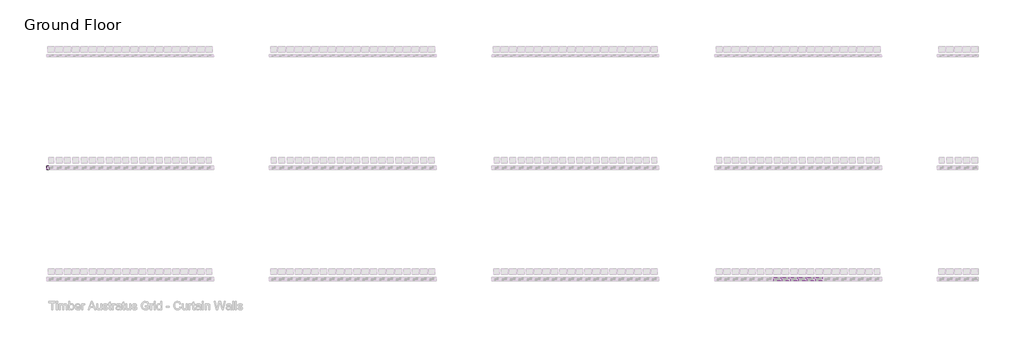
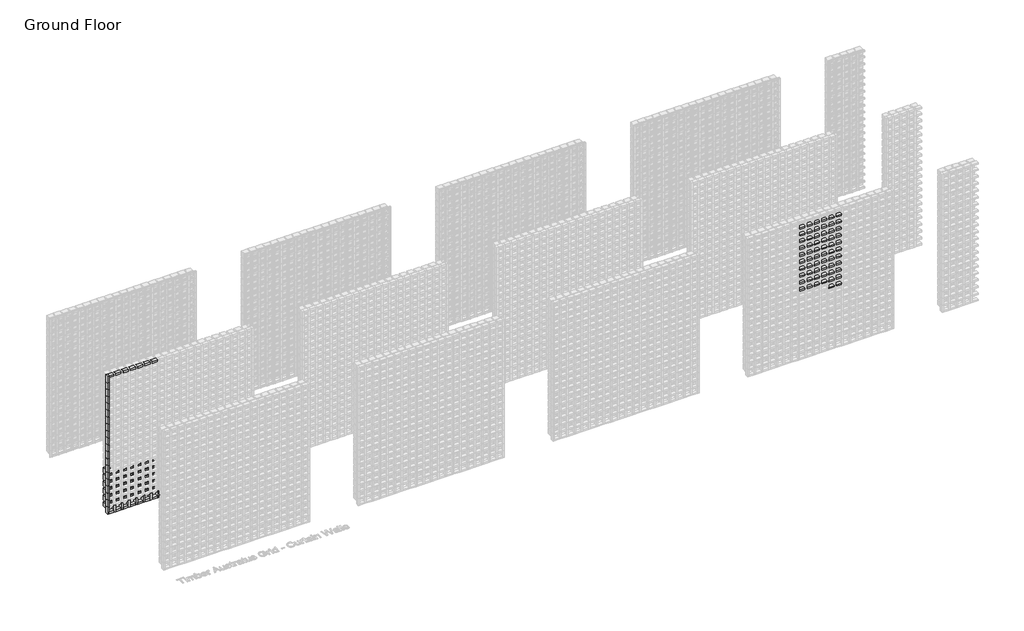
# One storey, part 79 of 350: 104 members, 36 plates.
"""IFC4 building model written with IfcOpenShell, lengths in millimetres."""

from ifc_helpers import new_model, si_unit, origin, place, context, project, spatial, transform, mapped, element, save
from components import rectangular_mullion_f28dea33, rectangular_mullion_655930e9, rectangular_mullion_78309e0b, rectangular_mullion_581565bb, rectangular_mullion_141bfd94, rectangular_mullion_d5b82d3d, rectangular_mullion_948b1c1d, empty_system_panel_empty_3b500fad, empty_system_panel_empty_e4510abc, empty_system_panel_empty_1faefc6a, empty_system_panel_empty_7f4523f5

model = new_model("IFC4")

# Units and contexts
model_context = context("Model", 3, world=origin())
ifc_project = project(units=[si_unit("LENGTHUNIT", "METRE", prefix="MILLI")], contexts=[model_context])

# Site, building, storey
site = spatial("IfcSite", under=ifc_project)
building = spatial("IfcBuilding", under=site)
storey = spatial("IfcBuildingStorey", under=building, Name="Ground Floor", Elevation=0.0)

# Members
placement = place(None, origin())
rectangular_mullion_shape = rectangular_mullion_f28dea33(model_context)
element("IfcMember", 1, ObjectType="Rectangular Mullion : Batten_Timber_Modinex_Austratus_Grid_Fascia_30x65_Ironbark", at=placement, inside=storey, context=model_context, shape_type="MappedRepresentation", body=[
    mapped(rectangular_mullion_shape, transform((15701.4361642, 38968.2978302, 1350.0), x_axis=(0.0, 0.0, 1.0), y_axis=(0.0, -1.0, 0.0), z_axis=(1.0, 0.0, 0.0))),
])
element("IfcMember", 2, ObjectType="Rectangular Mullion : Batten_Timber_Modinex_Austratus_Grid_Fascia_30x65_Ironbark", at=placement, inside=storey, context=model_context, shape_type="MappedRepresentation", body=[
    mapped(rectangular_mullion_shape, transform((15851.4361642, 38968.2978302, 1350.0), x_axis=(0.0, 0.0, 1.0), y_axis=(0.0, -1.0, 0.0), z_axis=(1.0, 0.0, 0.0))),
])
element("IfcMember", 3, ObjectType="Rectangular Mullion : Batten_Timber_Modinex_Austratus_Grid_Fascia_30x65_Ironbark", at=placement, inside=storey, context=model_context, shape_type="MappedRepresentation", body=[
    mapped(rectangular_mullion_shape, transform((15101.4361642, 38968.2978302, 1500.0), x_axis=(0.0, 0.0, 1.0), y_axis=(0.0, -1.0, 0.0), z_axis=(1.0, 0.0, 0.0))),
])
element("IfcMember", 4, ObjectType="Rectangular Mullion : Batten_Timber_Modinex_Austratus_Grid_Fascia_30x65_Ironbark", at=placement, inside=storey, context=model_context, shape_type="MappedRepresentation", body=[
    mapped(rectangular_mullion_shape, transform((15251.4361642, 38968.2978302, 1500.0), x_axis=(0.0, 0.0, 1.0), y_axis=(0.0, -1.0, 0.0), z_axis=(1.0, 0.0, 0.0))),
])
element("IfcMember", 5, ObjectType="Rectangular Mullion : Batten_Timber_Modinex_Austratus_Grid_Fascia_30x65_Ironbark", at=placement, inside=storey, context=model_context, shape_type="MappedRepresentation", body=[
    mapped(rectangular_mullion_shape, transform((15401.4361642, 38968.2978302, 1500.0), x_axis=(0.0, 0.0, 1.0), y_axis=(0.0, -1.0, 0.0), z_axis=(1.0, 0.0, 0.0))),
])
element("IfcMember", 6, ObjectType="Rectangular Mullion : Batten_Timber_Modinex_Austratus_Grid_Fascia_30x65_Ironbark", at=placement, inside=storey, context=model_context, shape_type="MappedRepresentation", body=[
    mapped(rectangular_mullion_shape, transform((15551.4361642, 38968.2978302, 1500.0), x_axis=(0.0, 0.0, 1.0), y_axis=(0.0, -1.0, 0.0), z_axis=(1.0, 0.0, 0.0))),
])
element("IfcMember", 7, ObjectType="Rectangular Mullion : Batten_Timber_Modinex_Austratus_Grid_Fascia_30x65_Ironbark", at=placement, inside=storey, context=model_context, shape_type="MappedRepresentation", body=[
    mapped(rectangular_mullion_shape, transform((15701.4361642, 38968.2978302, 1500.0), x_axis=(0.0, 0.0, 1.0), y_axis=(0.0, -1.0, 0.0), z_axis=(1.0, 0.0, 0.0))),
])
element("IfcMember", 8, ObjectType="Rectangular Mullion : Batten_Timber_Modinex_Austratus_Grid_Fascia_30x65_Ironbark", at=placement, inside=storey, context=model_context, shape_type="MappedRepresentation", body=[
    mapped(rectangular_mullion_shape, transform((15851.4361642, 38968.2978302, 1500.0), x_axis=(0.0, 0.0, 1.0), y_axis=(0.0, -1.0, 0.0), z_axis=(1.0, 0.0, 0.0))),
])
element("IfcMember", 9, ObjectType="Rectangular Mullion : Batten_Timber_Modinex_Austratus_Grid_Fascia_30x65_Ironbark", at=placement, inside=storey, context=model_context, shape_type="MappedRepresentation", body=[
    mapped(rectangular_mullion_shape, transform((15101.4361642, 38968.2978302, 1650.0), x_axis=(0.0, 0.0, 1.0), y_axis=(0.0, -1.0, 0.0), z_axis=(1.0, 0.0, 0.0))),
])
element("IfcMember", 10, ObjectType="Rectangular Mullion : Batten_Timber_Modinex_Austratus_Grid_Fascia_30x65_Ironbark", at=placement, inside=storey, context=model_context, shape_type="MappedRepresentation", body=[
    mapped(rectangular_mullion_shape, transform((15251.4361642, 38968.2978302, 1650.0), x_axis=(0.0, 0.0, 1.0), y_axis=(0.0, -1.0, 0.0), z_axis=(1.0, 0.0, 0.0))),
])
element("IfcMember", 11, ObjectType="Rectangular Mullion : Batten_Timber_Modinex_Austratus_Grid_Fascia_30x65_Ironbark", at=placement, inside=storey, context=model_context, shape_type="MappedRepresentation", body=[
    mapped(rectangular_mullion_shape, transform((15401.4361642, 38968.2978302, 1650.0), x_axis=(0.0, 0.0, 1.0), y_axis=(0.0, -1.0, 0.0), z_axis=(1.0, 0.0, 0.0))),
])
element("IfcMember", 12, ObjectType="Rectangular Mullion : Batten_Timber_Modinex_Austratus_Grid_Fascia_30x65_Ironbark", at=placement, inside=storey, context=model_context, shape_type="MappedRepresentation", body=[
    mapped(rectangular_mullion_shape, transform((15551.4361642, 38968.2978302, 1650.0), x_axis=(0.0, 0.0, 1.0), y_axis=(0.0, -1.0, 0.0), z_axis=(1.0, 0.0, 0.0))),
])
element("IfcMember", 13, ObjectType="Rectangular Mullion : Batten_Timber_Modinex_Austratus_Grid_Fascia_30x65_Ironbark", at=placement, inside=storey, context=model_context, shape_type="MappedRepresentation", body=[
    mapped(rectangular_mullion_shape, transform((15701.4361642, 38968.2978302, 1650.0), x_axis=(0.0, 0.0, 1.0), y_axis=(0.0, -1.0, 0.0), z_axis=(1.0, 0.0, 0.0))),
])
element("IfcMember", 14, ObjectType="Rectangular Mullion : Batten_Timber_Modinex_Austratus_Grid_Fascia_30x65_Ironbark", at=placement, inside=storey, context=model_context, shape_type="MappedRepresentation", body=[
    mapped(rectangular_mullion_shape, transform((15851.4361642, 38968.2978302, 1650.0), x_axis=(0.0, 0.0, 1.0), y_axis=(0.0, -1.0, 0.0), z_axis=(1.0, 0.0, 0.0))),
])
element("IfcMember", 15, ObjectType="Rectangular Mullion : Batten_Timber_Modinex_Austratus_Grid_Fascia_30x65_Ironbark", at=placement, inside=storey, context=model_context, shape_type="MappedRepresentation", body=[
    mapped(rectangular_mullion_shape, transform((15101.4361642, 38968.2978302, 1800.0), x_axis=(0.0, 0.0, 1.0), y_axis=(0.0, -1.0, 0.0), z_axis=(1.0, 0.0, 0.0))),
])
element("IfcMember", 16, ObjectType="Rectangular Mullion : Batten_Timber_Modinex_Austratus_Grid_Fascia_30x65_Ironbark", at=placement, inside=storey, context=model_context, shape_type="MappedRepresentation", body=[
    mapped(rectangular_mullion_shape, transform((15251.4361642, 38968.2978302, 1800.0), x_axis=(0.0, 0.0, 1.0), y_axis=(0.0, -1.0, 0.0), z_axis=(1.0, 0.0, 0.0))),
])
element("IfcMember", 17, ObjectType="Rectangular Mullion : Batten_Timber_Modinex_Austratus_Grid_Fascia_30x65_Ironbark", at=placement, inside=storey, context=model_context, shape_type="MappedRepresentation", body=[
    mapped(rectangular_mullion_shape, transform((15401.4361642, 38968.2978302, 1800.0), x_axis=(0.0, 0.0, 1.0), y_axis=(0.0, -1.0, 0.0), z_axis=(1.0, 0.0, 0.0))),
])
element("IfcMember", 18, ObjectType="Rectangular Mullion : Batten_Timber_Modinex_Austratus_Grid_Fascia_30x65_Ironbark", at=placement, inside=storey, context=model_context, shape_type="MappedRepresentation", body=[
    mapped(rectangular_mullion_shape, transform((15551.4361642, 38968.2978302, 1800.0), x_axis=(0.0, 0.0, 1.0), y_axis=(0.0, -1.0, 0.0), z_axis=(1.0, 0.0, 0.0))),
])
element("IfcMember", 19, ObjectType="Rectangular Mullion : Batten_Timber_Modinex_Austratus_Grid_Fascia_30x65_Ironbark", at=placement, inside=storey, context=model_context, shape_type="MappedRepresentation", body=[
    mapped(rectangular_mullion_shape, transform((15701.4361642, 38968.2978302, 1800.0), x_axis=(0.0, 0.0, 1.0), y_axis=(0.0, -1.0, 0.0), z_axis=(1.0, 0.0, 0.0))),
])
element("IfcMember", 20, ObjectType="Rectangular Mullion : Batten_Timber_Modinex_Austratus_Grid_Fascia_30x65_Ironbark", at=placement, inside=storey, context=model_context, shape_type="MappedRepresentation", body=[
    mapped(rectangular_mullion_shape, transform((15851.4361642, 38968.2978302, 1800.0), x_axis=(0.0, 0.0, 1.0), y_axis=(0.0, -1.0, 0.0), z_axis=(1.0, 0.0, 0.0))),
])
element("IfcMember", 21, ObjectType="Rectangular Mullion : Batten_Timber_Modinex_Austratus_Grid_Fascia_30x65_Ironbark", at=placement, inside=storey, context=model_context, shape_type="MappedRepresentation", body=[
    mapped(rectangular_mullion_shape, transform((15101.4361642, 38968.2978302, 1950.0), x_axis=(0.0, 0.0, 1.0), y_axis=(0.0, -1.0, 0.0), z_axis=(1.0, 0.0, 0.0))),
])
element("IfcMember", 22, ObjectType="Rectangular Mullion : Batten_Timber_Modinex_Austratus_Grid_Fascia_30x65_Ironbark", at=placement, inside=storey, context=model_context, shape_type="MappedRepresentation", body=[
    mapped(rectangular_mullion_shape, transform((15251.4361642, 38968.2978302, 1950.0), x_axis=(0.0, 0.0, 1.0), y_axis=(0.0, -1.0, 0.0), z_axis=(1.0, 0.0, 0.0))),
])
element("IfcMember", 23, ObjectType="Rectangular Mullion : Batten_Timber_Modinex_Austratus_Grid_Fascia_30x65_Ironbark", at=placement, inside=storey, context=model_context, shape_type="MappedRepresentation", body=[
    mapped(rectangular_mullion_shape, transform((15401.4361642, 38968.2978302, 1950.0), x_axis=(0.0, 0.0, 1.0), y_axis=(0.0, -1.0, 0.0), z_axis=(1.0, 0.0, 0.0))),
])
element("IfcMember", 24, ObjectType="Rectangular Mullion : Batten_Timber_Modinex_Austratus_Grid_Fascia_30x65_Ironbark", at=placement, inside=storey, context=model_context, shape_type="MappedRepresentation", body=[
    mapped(rectangular_mullion_shape, transform((15551.4361642, 38968.2978302, 1950.0), x_axis=(0.0, 0.0, 1.0), y_axis=(0.0, -1.0, 0.0), z_axis=(1.0, 0.0, 0.0))),
])
element("IfcMember", 25, ObjectType="Rectangular Mullion : Batten_Timber_Modinex_Austratus_Grid_Fascia_30x65_Ironbark", at=placement, inside=storey, context=model_context, shape_type="MappedRepresentation", body=[
    mapped(rectangular_mullion_shape, transform((15701.4361642, 38968.2978302, 1950.0), x_axis=(0.0, 0.0, 1.0), y_axis=(0.0, -1.0, 0.0), z_axis=(1.0, 0.0, 0.0))),
])
element("IfcMember", 26, ObjectType="Rectangular Mullion : Batten_Timber_Modinex_Austratus_Grid_Fascia_30x65_Ironbark", at=placement, inside=storey, context=model_context, shape_type="MappedRepresentation", body=[
    mapped(rectangular_mullion_shape, transform((15851.4361642, 38968.2978302, 1950.0), x_axis=(0.0, 0.0, 1.0), y_axis=(0.0, -1.0, 0.0), z_axis=(1.0, 0.0, 0.0))),
])
element("IfcMember", 27, ObjectType="Rectangular Mullion : Batten_Timber_Modinex_Austratus_Grid_Fascia_30x65_Ironbark", at=placement, inside=storey, context=model_context, shape_type="MappedRepresentation", body=[
    mapped(rectangular_mullion_shape, transform((15101.4361642, 38968.2978302, 2100.0), x_axis=(0.0, 0.0, 1.0), y_axis=(0.0, -1.0, 0.0), z_axis=(1.0, 0.0, 0.0))),
])
element("IfcMember", 28, ObjectType="Rectangular Mullion : Batten_Timber_Modinex_Austratus_Grid_Fascia_30x65_Ironbark", at=placement, inside=storey, context=model_context, shape_type="MappedRepresentation", body=[
    mapped(rectangular_mullion_shape, transform((15251.4361642, 38968.2978302, 2100.0), x_axis=(0.0, 0.0, 1.0), y_axis=(0.0, -1.0, 0.0), z_axis=(1.0, 0.0, 0.0))),
])
element("IfcMember", 29, ObjectType="Rectangular Mullion : Batten_Timber_Modinex_Austratus_Grid_Fascia_30x65_Ironbark", at=placement, inside=storey, context=model_context, shape_type="MappedRepresentation", body=[
    mapped(rectangular_mullion_shape, transform((15401.4361642, 38968.2978302, 2100.0), x_axis=(0.0, 0.0, 1.0), y_axis=(0.0, -1.0, 0.0), z_axis=(1.0, 0.0, 0.0))),
])
element("IfcMember", 30, ObjectType="Rectangular Mullion : Batten_Timber_Modinex_Austratus_Grid_Fascia_30x65_Ironbark", at=placement, inside=storey, context=model_context, shape_type="MappedRepresentation", body=[
    mapped(rectangular_mullion_shape, transform((15551.4361642, 38968.2978302, 2100.0), x_axis=(0.0, 0.0, 1.0), y_axis=(0.0, -1.0, 0.0), z_axis=(1.0, 0.0, 0.0))),
])
element("IfcMember", 31, ObjectType="Rectangular Mullion : Batten_Timber_Modinex_Austratus_Grid_Fascia_30x65_Ironbark", at=placement, inside=storey, context=model_context, shape_type="MappedRepresentation", body=[
    mapped(rectangular_mullion_shape, transform((15701.4361642, 38968.2978302, 2100.0), x_axis=(0.0, 0.0, 1.0), y_axis=(0.0, -1.0, 0.0), z_axis=(1.0, 0.0, 0.0))),
])
element("IfcMember", 32, ObjectType="Rectangular Mullion : Batten_Timber_Modinex_Austratus_Grid_Fascia_30x65_Ironbark", at=placement, inside=storey, context=model_context, shape_type="MappedRepresentation", body=[
    mapped(rectangular_mullion_shape, transform((15851.4361642, 38968.2978302, 2100.0), x_axis=(0.0, 0.0, 1.0), y_axis=(0.0, -1.0, 0.0), z_axis=(1.0, 0.0, 0.0))),
])
element("IfcMember", 33, ObjectType="Rectangular Mullion : Batten_Timber_Modinex_Austratus_Grid_Fascia_30x65_Ironbark", at=placement, inside=storey, context=model_context, shape_type="MappedRepresentation", body=[
    mapped(rectangular_mullion_shape, transform((15101.4361642, 38968.2978302, 2250.0), x_axis=(0.0, 0.0, 1.0), y_axis=(0.0, -1.0, 0.0), z_axis=(1.0, 0.0, 0.0))),
])
element("IfcMember", 34, ObjectType="Rectangular Mullion : Batten_Timber_Modinex_Austratus_Grid_Fascia_30x65_Ironbark", at=placement, inside=storey, context=model_context, shape_type="MappedRepresentation", body=[
    mapped(rectangular_mullion_shape, transform((15251.4361642, 38968.2978302, 2250.0), x_axis=(0.0, 0.0, 1.0), y_axis=(0.0, -1.0, 0.0), z_axis=(1.0, 0.0, 0.0))),
])
element("IfcMember", 35, ObjectType="Rectangular Mullion : Batten_Timber_Modinex_Austratus_Grid_Fascia_30x65_Ironbark", at=placement, inside=storey, context=model_context, shape_type="MappedRepresentation", body=[
    mapped(rectangular_mullion_shape, transform((15401.4361642, 38968.2978302, 2250.0), x_axis=(0.0, 0.0, 1.0), y_axis=(0.0, -1.0, 0.0), z_axis=(1.0, 0.0, 0.0))),
])
element("IfcMember", 36, ObjectType="Rectangular Mullion : Batten_Timber_Modinex_Austratus_Grid_Fascia_30x65_Ironbark", at=placement, inside=storey, context=model_context, shape_type="MappedRepresentation", body=[
    mapped(rectangular_mullion_shape, transform((15551.4361642, 38968.2978302, 2250.0), x_axis=(0.0, 0.0, 1.0), y_axis=(0.0, -1.0, 0.0), z_axis=(1.0, 0.0, 0.0))),
])
element("IfcMember", 37, ObjectType="Rectangular Mullion : Batten_Timber_Modinex_Austratus_Grid_Fascia_30x65_Ironbark", at=placement, inside=storey, context=model_context, shape_type="MappedRepresentation", body=[
    mapped(rectangular_mullion_shape, transform((15701.4361642, 38968.2978302, 2250.0), x_axis=(0.0, 0.0, 1.0), y_axis=(0.0, -1.0, 0.0), z_axis=(1.0, 0.0, 0.0))),
])
element("IfcMember", 38, ObjectType="Rectangular Mullion : Batten_Timber_Modinex_Austratus_Grid_Fascia_30x65_Ironbark", at=placement, inside=storey, context=model_context, shape_type="MappedRepresentation", body=[
    mapped(rectangular_mullion_shape, transform((15851.4361642, 38968.2978302, 2250.0), x_axis=(0.0, 0.0, 1.0), y_axis=(0.0, -1.0, 0.0), z_axis=(1.0, 0.0, 0.0))),
])
element("IfcMember", 39, ObjectType="Rectangular Mullion : Batten_Timber_Modinex_Austratus_Grid_Fascia_30x65_Ironbark", at=placement, inside=storey, context=model_context, shape_type="MappedRepresentation", body=[
    mapped(rectangular_mullion_shape, transform((15101.4361642, 38968.2978302, 2400.0), x_axis=(0.0, 0.0, 1.0), y_axis=(0.0, -1.0, 0.0), z_axis=(1.0, 0.0, 0.0))),
])
element("IfcMember", 40, ObjectType="Rectangular Mullion : Batten_Timber_Modinex_Austratus_Grid_Fascia_30x65_Ironbark", at=placement, inside=storey, context=model_context, shape_type="MappedRepresentation", body=[
    mapped(rectangular_mullion_shape, transform((15251.4361642, 38968.2978302, 2400.0), x_axis=(0.0, 0.0, 1.0), y_axis=(0.0, -1.0, 0.0), z_axis=(1.0, 0.0, 0.0))),
])
element("IfcMember", 41, ObjectType="Rectangular Mullion : Batten_Timber_Modinex_Austratus_Grid_Fascia_30x65_Ironbark", at=placement, inside=storey, context=model_context, shape_type="MappedRepresentation", body=[
    mapped(rectangular_mullion_shape, transform((15401.4361642, 38968.2978302, 2400.0), x_axis=(0.0, 0.0, 1.0), y_axis=(0.0, -1.0, 0.0), z_axis=(1.0, 0.0, 0.0))),
])
element("IfcMember", 42, ObjectType="Rectangular Mullion : Batten_Timber_Modinex_Austratus_Grid_Fascia_30x65_Ironbark", at=placement, inside=storey, context=model_context, shape_type="MappedRepresentation", body=[
    mapped(rectangular_mullion_shape, transform((15551.4361642, 38968.2978302, 2400.0), x_axis=(0.0, 0.0, 1.0), y_axis=(0.0, -1.0, 0.0), z_axis=(1.0, 0.0, 0.0))),
])
element("IfcMember", 43, ObjectType="Rectangular Mullion : Batten_Timber_Modinex_Austratus_Grid_Fascia_30x65_Ironbark", at=placement, inside=storey, context=model_context, shape_type="MappedRepresentation", body=[
    mapped(rectangular_mullion_shape, transform((15701.4361642, 38968.2978302, 2400.0), x_axis=(0.0, 0.0, 1.0), y_axis=(0.0, -1.0, 0.0), z_axis=(1.0, 0.0, 0.0))),
])
element("IfcMember", 44, ObjectType="Rectangular Mullion : Batten_Timber_Modinex_Austratus_Grid_Fascia_30x65_Ironbark", at=placement, inside=storey, context=model_context, shape_type="MappedRepresentation", body=[
    mapped(rectangular_mullion_shape, transform((15851.4361642, 38968.2978302, 2400.0), x_axis=(0.0, 0.0, 1.0), y_axis=(0.0, -1.0, 0.0), z_axis=(1.0, 0.0, 0.0))),
])
element("IfcMember", 45, ObjectType="Rectangular Mullion : Batten_Timber_Modinex_Austratus_Grid_Fascia_30x65_Ironbark", at=placement, inside=storey, context=model_context, shape_type="MappedRepresentation", body=[
    mapped(rectangular_mullion_shape, transform((15101.4361642, 38968.2978302, 2550.0), x_axis=(0.0, 0.0, 1.0), y_axis=(0.0, -1.0, 0.0), z_axis=(1.0, 0.0, 0.0))),
])
element("IfcMember", 46, ObjectType="Rectangular Mullion : Batten_Timber_Modinex_Austratus_Grid_Fascia_30x65_Ironbark", at=placement, inside=storey, context=model_context, shape_type="MappedRepresentation", body=[
    mapped(rectangular_mullion_shape, transform((15251.4361642, 38968.2978302, 2550.0), x_axis=(0.0, 0.0, 1.0), y_axis=(0.0, -1.0, 0.0), z_axis=(1.0, 0.0, 0.0))),
])
element("IfcMember", 47, ObjectType="Rectangular Mullion : Batten_Timber_Modinex_Austratus_Grid_Fascia_30x65_Ironbark", at=placement, inside=storey, context=model_context, shape_type="MappedRepresentation", body=[
    mapped(rectangular_mullion_shape, transform((15401.4361642, 38968.2978302, 2550.0), x_axis=(0.0, 0.0, 1.0), y_axis=(0.0, -1.0, 0.0), z_axis=(1.0, 0.0, 0.0))),
])
element("IfcMember", 48, ObjectType="Rectangular Mullion : Batten_Timber_Modinex_Austratus_Grid_Fascia_30x65_Ironbark", at=placement, inside=storey, context=model_context, shape_type="MappedRepresentation", body=[
    mapped(rectangular_mullion_shape, transform((15551.4361642, 38968.2978302, 2550.0), x_axis=(0.0, 0.0, 1.0), y_axis=(0.0, -1.0, 0.0), z_axis=(1.0, 0.0, 0.0))),
])
element("IfcMember", 49, ObjectType="Rectangular Mullion : Batten_Timber_Modinex_Austratus_Grid_Fascia_30x65_Ironbark", at=placement, inside=storey, context=model_context, shape_type="MappedRepresentation", body=[
    mapped(rectangular_mullion_shape, transform((15701.4361642, 38968.2978302, 2550.0), x_axis=(0.0, 0.0, 1.0), y_axis=(0.0, -1.0, 0.0), z_axis=(1.0, 0.0, 0.0))),
])
element("IfcMember", 50, ObjectType="Rectangular Mullion : Batten_Timber_Modinex_Austratus_Grid_Fascia_30x65_Ironbark", at=placement, inside=storey, context=model_context, shape_type="MappedRepresentation", body=[
    mapped(rectangular_mullion_shape, transform((15851.4361642, 38968.2978302, 2550.0), x_axis=(0.0, 0.0, 1.0), y_axis=(0.0, -1.0, 0.0), z_axis=(1.0, 0.0, 0.0))),
])
element("IfcMember", 51, ObjectType="Rectangular Mullion : Batten_Timber_Modinex_Austratus_Grid_Fascia_30x65_Ironbark", at=placement, inside=storey, context=model_context, shape_type="MappedRepresentation", body=[
    mapped(rectangular_mullion_shape, transform((15101.4361642, 38968.2978302, 2700.0), x_axis=(0.0, 0.0, 1.0), y_axis=(0.0, -1.0, 0.0), z_axis=(1.0, 0.0, 0.0))),
])
element("IfcMember", 52, ObjectType="Rectangular Mullion : Batten_Timber_Modinex_Austratus_Grid_Fascia_30x65_Ironbark", at=placement, inside=storey, context=model_context, shape_type="MappedRepresentation", body=[
    mapped(rectangular_mullion_shape, transform((15251.4361642, 38968.2978302, 2700.0), x_axis=(0.0, 0.0, 1.0), y_axis=(0.0, -1.0, 0.0), z_axis=(1.0, 0.0, 0.0))),
])
element("IfcMember", 53, ObjectType="Rectangular Mullion : Batten_Timber_Modinex_Austratus_Grid_Fascia_30x65_Ironbark", at=placement, inside=storey, context=model_context, shape_type="MappedRepresentation", body=[
    mapped(rectangular_mullion_shape, transform((15401.4361642, 38968.2978302, 2700.0), x_axis=(0.0, 0.0, 1.0), y_axis=(0.0, -1.0, 0.0), z_axis=(1.0, 0.0, 0.0))),
])
element("IfcMember", 54, ObjectType="Rectangular Mullion : Batten_Timber_Modinex_Austratus_Grid_Fascia_30x65_Ironbark", at=placement, inside=storey, context=model_context, shape_type="MappedRepresentation", body=[
    mapped(rectangular_mullion_shape, transform((15551.4361642, 38968.2978302, 2700.0), x_axis=(0.0, 0.0, 1.0), y_axis=(0.0, -1.0, 0.0), z_axis=(1.0, 0.0, 0.0))),
])
element("IfcMember", 55, ObjectType="Rectangular Mullion : Batten_Timber_Modinex_Austratus_Grid_Fascia_30x65_Ironbark", at=placement, inside=storey, context=model_context, shape_type="MappedRepresentation", body=[
    mapped(rectangular_mullion_shape, transform((15701.4361642, 38968.2978302, 2700.0), x_axis=(0.0, 0.0, 1.0), y_axis=(0.0, -1.0, 0.0), z_axis=(1.0, 0.0, 0.0))),
])
element("IfcMember", 56, ObjectType="Rectangular Mullion : Batten_Timber_Modinex_Austratus_Grid_Fascia_30x65_Ironbark", at=placement, inside=storey, context=model_context, shape_type="MappedRepresentation", body=[
    mapped(rectangular_mullion_shape, transform((15851.4361642, 38968.2978302, 2700.0), x_axis=(0.0, 0.0, 1.0), y_axis=(0.0, -1.0, 0.0), z_axis=(1.0, 0.0, 0.0))),
])
element("IfcMember", 57, ObjectType="Rectangular Mullion : Batten_Timber_Modinex_Austratus_Grid_Fascia_30x65_Ironbark", at=placement, inside=storey, context=model_context, shape_type="MappedRepresentation", body=[
    mapped(rectangular_mullion_shape, transform((15101.4361642, 38968.2978302, 2850.0), x_axis=(0.0, 0.0, 1.0), y_axis=(0.0, -1.0, 0.0), z_axis=(1.0, 0.0, 0.0))),
])
element("IfcMember", 58, ObjectType="Rectangular Mullion : Batten_Timber_Modinex_Austratus_Grid_Fascia_30x65_Ironbark", at=placement, inside=storey, context=model_context, shape_type="MappedRepresentation", body=[
    mapped(rectangular_mullion_shape, transform((15251.4361642, 38968.2978302, 2850.0), x_axis=(0.0, 0.0, 1.0), y_axis=(0.0, -1.0, 0.0), z_axis=(1.0, 0.0, 0.0))),
])
element("IfcMember", 59, ObjectType="Rectangular Mullion : Batten_Timber_Modinex_Austratus_Grid_Fascia_30x65_Ironbark", at=placement, inside=storey, context=model_context, shape_type="MappedRepresentation", body=[
    mapped(rectangular_mullion_shape, transform((15401.4361642, 38968.2978302, 2850.0), x_axis=(0.0, 0.0, 1.0), y_axis=(0.0, -1.0, 0.0), z_axis=(1.0, 0.0, 0.0))),
])
element("IfcMember", 60, ObjectType="Rectangular Mullion : Batten_Timber_Modinex_Austratus_Grid_Fascia_30x65_Ironbark", at=placement, inside=storey, context=model_context, shape_type="MappedRepresentation", body=[
    mapped(rectangular_mullion_shape, transform((15551.4361642, 38968.2978302, 2850.0), x_axis=(0.0, 0.0, 1.0), y_axis=(0.0, -1.0, 0.0), z_axis=(1.0, 0.0, 0.0))),
])
element("IfcMember", 61, ObjectType="Rectangular Mullion : Batten_Timber_Modinex_Austratus_Grid_Fascia_30x65_Ironbark", at=placement, inside=storey, context=model_context, shape_type="MappedRepresentation", body=[
    mapped(rectangular_mullion_shape, transform((15701.4361642, 38968.2978302, 2850.0), x_axis=(0.0, 0.0, 1.0), y_axis=(0.0, -1.0, 0.0), z_axis=(1.0, 0.0, 0.0))),
])
element("IfcMember", 62, ObjectType="Rectangular Mullion : Batten_Timber_Modinex_Austratus_Grid_Fascia_30x65_Ironbark", at=placement, inside=storey, context=model_context, shape_type="MappedRepresentation", body=[
    mapped(rectangular_mullion_shape, transform((15851.4361642, 38968.2978302, 2850.0), x_axis=(0.0, 0.0, 1.0), y_axis=(0.0, -1.0, 0.0), z_axis=(1.0, 0.0, 0.0))),
])
rectangular_mullion_2_shape = rectangular_mullion_655930e9(model_context)
element("IfcMember", 63, ObjectType="Rectangular Mullion : Batten_Timber_Modinex_Austratus_Grid_Fascia_40x65_AlaskanYellowCedar", at=placement, inside=storey, context=model_context, shape_type="MappedRepresentation", body=[
    mapped(rectangular_mullion_2_shape, transform((2066.4361642, 40968.2978302, 0.0), x_axis=(1.0, 0.0, 0.0), y_axis=(0.0, -1.0, 0.0), z_axis=(0.0, 0.0, -1.0))),
])
element("IfcMember", 64, ObjectType="Rectangular Mullion : Batten_Timber_Modinex_Austratus_Grid_Fascia_40x65_AlaskanYellowCedar", at=placement, inside=storey, context=model_context, shape_type="MappedRepresentation", body=[
    mapped(rectangular_mullion_2_shape, transform((2216.4361642, 40968.2978302, 0.0), x_axis=(1.0, 0.0, 0.0), y_axis=(0.0, -1.0, 0.0), z_axis=(0.0, 0.0, -1.0))),
])
element("IfcMember", 65, ObjectType="Rectangular Mullion : Batten_Timber_Modinex_Austratus_Grid_Fascia_40x65_AlaskanYellowCedar", at=placement, inside=storey, context=model_context, shape_type="MappedRepresentation", body=[
    mapped(rectangular_mullion_2_shape, transform((2366.4361642, 40968.2978302, 0.0), x_axis=(1.0, 0.0, 0.0), y_axis=(0.0, -1.0, 0.0), z_axis=(0.0, 0.0, -1.0))),
])
element("IfcMember", 66, ObjectType="Rectangular Mullion : Batten_Timber_Modinex_Austratus_Grid_Fascia_40x65_AlaskanYellowCedar", at=placement, inside=storey, context=model_context, shape_type="MappedRepresentation", body=[
    mapped(rectangular_mullion_2_shape, transform((2516.4361642, 40968.2978302, 0.0), x_axis=(1.0, 0.0, 0.0), y_axis=(0.0, -1.0, 0.0), z_axis=(0.0, 0.0, -1.0))),
])
element("IfcMember", 67, ObjectType="Rectangular Mullion : Batten_Timber_Modinex_Austratus_Grid_Fascia_40x65_AlaskanYellowCedar", at=placement, inside=storey, context=model_context, shape_type="MappedRepresentation", body=[
    mapped(rectangular_mullion_2_shape, transform((2666.4361642, 40968.2978302, 0.0), x_axis=(1.0, 0.0, 0.0), y_axis=(0.0, -1.0, 0.0), z_axis=(0.0, 0.0, -1.0))),
])
element("IfcMember", 68, ObjectType="Rectangular Mullion : Batten_Timber_Modinex_Austratus_Grid_Fascia_40x65_AlaskanYellowCedar", at=placement, inside=storey, context=model_context, shape_type="MappedRepresentation", body=[
    mapped(rectangular_mullion_2_shape, transform((2816.4361642, 40968.2978302, 0.0), x_axis=(1.0, 0.0, 0.0), y_axis=(0.0, -1.0, 0.0), z_axis=(0.0, 0.0, -1.0))),
])
element("IfcMember", 69, ObjectType="Rectangular Mullion : Batten_Timber_Modinex_Austratus_Grid_Fascia_40x65_AlaskanYellowCedar", at=placement, inside=storey, context=model_context, shape_type="MappedRepresentation", body=[
    mapped(rectangular_mullion_2_shape, transform((2966.4361642, 40968.2978302, 0.0), x_axis=(1.0, 0.0, 0.0), y_axis=(0.0, -1.0, 0.0), z_axis=(0.0, 0.0, -1.0))),
])
rectangular_mullion_3_shape = rectangular_mullion_78309e0b(model_context)
element("IfcMember", 70, ObjectType="Rectangular Mullion : Batten_Timber_Modinex_Austratus_Grid_Fascia_40x65_AlaskanYellowCedar", at=placement, inside=storey, context=model_context, shape_type="MappedRepresentation", body=[
    mapped(rectangular_mullion_3_shape, transform((2046.4361642, 40968.2978302, 3000.0), x_axis=(0.0, 0.0, 1.0), y_axis=(0.0, -1.0, 0.0), z_axis=(1.0, 0.0, 0.0))),
])
rectangular_mullion_4_shape = rectangular_mullion_581565bb(model_context)
element("IfcMember", 71, ObjectType="Rectangular Mullion : Batten_Timber_Modinex_Austratus_Grid_Fascia_40x65_AlaskanYellowCedar", at=placement, inside=storey, context=model_context, shape_type="MappedRepresentation", body=[
    mapped(rectangular_mullion_4_shape, transform((2196.4361642, 40968.2978302, 3000.0), x_axis=(0.0, 0.0, 1.0), y_axis=(0.0, -1.0, 0.0), z_axis=(1.0, 0.0, 0.0))),
])
element("IfcMember", 72, ObjectType="Rectangular Mullion : Batten_Timber_Modinex_Austratus_Grid_Fascia_40x65_AlaskanYellowCedar", at=placement, inside=storey, context=model_context, shape_type="MappedRepresentation", body=[
    mapped(rectangular_mullion_4_shape, transform((2346.4361642, 40968.2978302, 3000.0), x_axis=(0.0, 0.0, 1.0), y_axis=(0.0, -1.0, 0.0), z_axis=(1.0, 0.0, 0.0))),
])
element("IfcMember", 73, ObjectType="Rectangular Mullion : Batten_Timber_Modinex_Austratus_Grid_Fascia_40x65_AlaskanYellowCedar", at=placement, inside=storey, context=model_context, shape_type="MappedRepresentation", body=[
    mapped(rectangular_mullion_4_shape, transform((2496.4361642, 40968.2978302, 3000.0), x_axis=(0.0, 0.0, 1.0), y_axis=(0.0, -1.0, 0.0), z_axis=(1.0, 0.0, 0.0))),
])
element("IfcMember", 74, ObjectType="Rectangular Mullion : Batten_Timber_Modinex_Austratus_Grid_Fascia_40x65_AlaskanYellowCedar", at=placement, inside=storey, context=model_context, shape_type="MappedRepresentation", body=[
    mapped(rectangular_mullion_4_shape, transform((2646.4361642, 40968.2978302, 3000.0), x_axis=(0.0, 0.0, 1.0), y_axis=(0.0, -1.0, 0.0), z_axis=(1.0, 0.0, 0.0))),
])
element("IfcMember", 75, ObjectType="Rectangular Mullion : Batten_Timber_Modinex_Austratus_Grid_Fascia_40x65_AlaskanYellowCedar", at=placement, inside=storey, context=model_context, shape_type="MappedRepresentation", body=[
    mapped(rectangular_mullion_4_shape, transform((2796.4361642, 40968.2978302, 3000.0), x_axis=(0.0, 0.0, 1.0), y_axis=(0.0, -1.0, 0.0), z_axis=(1.0, 0.0, 0.0))),
])
element("IfcMember", 76, ObjectType="Rectangular Mullion : Batten_Timber_Modinex_Austratus_Grid_Fascia_40x65_AlaskanYellowCedar", at=placement, inside=storey, context=model_context, shape_type="MappedRepresentation", body=[
    mapped(rectangular_mullion_4_shape, transform((2946.4361642, 40968.2978302, 3000.0), x_axis=(0.0, 0.0, 1.0), y_axis=(0.0, -1.0, 0.0), z_axis=(1.0, 0.0, 0.0))),
])
rectangular_mullion_5_shape = rectangular_mullion_141bfd94(model_context)
element("IfcMember", 77, ObjectType="Rectangular Mullion : Batten_Timber_Modinex_Austratus_Grid_Fascia_40x65_AlaskanYellowCedar", at=placement, inside=storey, context=model_context, shape_type="MappedRepresentation", body=[
    mapped(rectangular_mullion_5_shape, transform((1956.4361639, 40968.2978302, 0.0), x_axis=(0.0, 0.0, -1.0), y_axis=(0.0, -1.0, 0.0), z_axis=(-1.0, 0.0, 0.0))),
])
rectangular_mullion_6_shape = rectangular_mullion_d5b82d3d(model_context)
element("IfcMember", 78, ObjectType="Rectangular Mullion : Batten_Timber_Modinex_Austratus_Grid_Fascia_40x65_AlaskanYellowCedar", at=placement, inside=storey, context=model_context, shape_type="MappedRepresentation", body=[
    mapped(rectangular_mullion_6_shape, transform((2086.4361642, 40968.2978302, 0.0), x_axis=(0.0, 0.0, -1.0), y_axis=(0.0, -1.0, 0.0), z_axis=(-1.0, 0.0, 0.0))),
])
element("IfcMember", 79, ObjectType="Rectangular Mullion : Batten_Timber_Modinex_Austratus_Grid_Fascia_40x65_AlaskanYellowCedar", at=placement, inside=storey, context=model_context, shape_type="MappedRepresentation", body=[
    mapped(rectangular_mullion_6_shape, transform((2236.4361642, 40968.2978302, 0.0), x_axis=(0.0, 0.0, -1.0), y_axis=(0.0, -1.0, 0.0), z_axis=(-1.0, 0.0, 0.0))),
])
element("IfcMember", 80, ObjectType="Rectangular Mullion : Batten_Timber_Modinex_Austratus_Grid_Fascia_40x65_AlaskanYellowCedar", at=placement, inside=storey, context=model_context, shape_type="MappedRepresentation", body=[
    mapped(rectangular_mullion_6_shape, transform((2386.4361642, 40968.2978302, 0.0), x_axis=(0.0, 0.0, -1.0), y_axis=(0.0, -1.0, 0.0), z_axis=(-1.0, 0.0, 0.0))),
])
element("IfcMember", 81, ObjectType="Rectangular Mullion : Batten_Timber_Modinex_Austratus_Grid_Fascia_40x65_AlaskanYellowCedar", at=placement, inside=storey, context=model_context, shape_type="MappedRepresentation", body=[
    mapped(rectangular_mullion_6_shape, transform((2536.4361642, 40968.2978302, 0.0), x_axis=(0.0, 0.0, -1.0), y_axis=(0.0, -1.0, 0.0), z_axis=(-1.0, 0.0, 0.0))),
])
element("IfcMember", 82, ObjectType="Rectangular Mullion : Batten_Timber_Modinex_Austratus_Grid_Fascia_40x65_AlaskanYellowCedar", at=placement, inside=storey, context=model_context, shape_type="MappedRepresentation", body=[
    mapped(rectangular_mullion_6_shape, transform((2686.4361642, 40968.2978302, 0.0), x_axis=(0.0, 0.0, -1.0), y_axis=(0.0, -1.0, 0.0), z_axis=(-1.0, 0.0, 0.0))),
])
element("IfcMember", 83, ObjectType="Rectangular Mullion : Batten_Timber_Modinex_Austratus_Grid_Fascia_40x65_AlaskanYellowCedar", at=placement, inside=storey, context=model_context, shape_type="MappedRepresentation", body=[
    mapped(rectangular_mullion_6_shape, transform((2836.4361642, 40968.2978302, 0.0), x_axis=(0.0, 0.0, -1.0), y_axis=(0.0, -1.0, 0.0), z_axis=(-1.0, 0.0, 0.0))),
])
element("IfcMember", 84, ObjectType="Rectangular Mullion : Batten_Timber_Modinex_Austratus_Grid_Fascia_40x65_AlaskanYellowCedar", at=placement, inside=storey, context=model_context, shape_type="MappedRepresentation", body=[
    mapped(rectangular_mullion_6_shape, transform((2986.4361642, 40968.2978302, 0.0), x_axis=(0.0, 0.0, -1.0), y_axis=(0.0, -1.0, 0.0), z_axis=(-1.0, 0.0, 0.0))),
])
rectangular_mullion_7_shape = rectangular_mullion_948b1c1d(model_context)
element("IfcMember", 85, ObjectType="Rectangular Mullion : Batten_Timber_Modinex_Austratus_Grid_Fascia_40x65_AlaskanYellowCedar", at=placement, inside=storey, context=model_context, shape_type="MappedRepresentation", body=[
    mapped(rectangular_mullion_7_shape, transform((1916.4361639, 40968.2978302, 3000.0), x_axis=(-1.0, 0.0, 0.0), y_axis=(0.0, -1.0, 0.0), z_axis=(0.0, 0.0, 1.0))),
])
element("IfcMember", 86, ObjectType="Rectangular Mullion : Batten_Timber_Modinex_Austratus_Grid_Fascia_40x65_AlaskanYellowCedar", at=placement, inside=storey, context=model_context, shape_type="MappedRepresentation", body=[
    mapped(rectangular_mullion_7_shape, transform((1916.4361639, 40968.2978302, 150.0), x_axis=(-1.0, 0.0, 0.0), y_axis=(0.0, -1.0, 0.0), z_axis=(0.0, 0.0, 1.0))),
])
element("IfcMember", 87, ObjectType="Rectangular Mullion : Batten_Timber_Modinex_Austratus_Grid_Fascia_40x65_AlaskanYellowCedar", at=placement, inside=storey, context=model_context, shape_type="MappedRepresentation", body=[
    mapped(rectangular_mullion_7_shape, transform((1916.4361639, 40968.2978302, 300.0), x_axis=(-1.0, 0.0, 0.0), y_axis=(0.0, -1.0, 0.0), z_axis=(0.0, 0.0, 1.0))),
])
element("IfcMember", 88, ObjectType="Rectangular Mullion : Batten_Timber_Modinex_Austratus_Grid_Fascia_40x65_AlaskanYellowCedar", at=placement, inside=storey, context=model_context, shape_type="MappedRepresentation", body=[
    mapped(rectangular_mullion_7_shape, transform((1916.4361639, 40968.2978302, 450.0), x_axis=(-1.0, 0.0, 0.0), y_axis=(0.0, -1.0, 0.0), z_axis=(0.0, 0.0, 1.0))),
])
element("IfcMember", 89, ObjectType="Rectangular Mullion : Batten_Timber_Modinex_Austratus_Grid_Fascia_40x65_AlaskanYellowCedar", at=placement, inside=storey, context=model_context, shape_type="MappedRepresentation", body=[
    mapped(rectangular_mullion_7_shape, transform((1916.4361639, 40968.2978302, 600.0), x_axis=(-1.0, 0.0, 0.0), y_axis=(0.0, -1.0, 0.0), z_axis=(0.0, 0.0, 1.0))),
])
element("IfcMember", 90, ObjectType="Rectangular Mullion : Batten_Timber_Modinex_Austratus_Grid_Fascia_40x65_AlaskanYellowCedar", at=placement, inside=storey, context=model_context, shape_type="MappedRepresentation", body=[
    mapped(rectangular_mullion_7_shape, transform((1916.4361639, 40968.2978302, 750.0), x_axis=(-1.0, 0.0, 0.0), y_axis=(0.0, -1.0, 0.0), z_axis=(0.0, 0.0, 1.0))),
])
element("IfcMember", 91, ObjectType="Rectangular Mullion : Batten_Timber_Modinex_Austratus_Grid_Fascia_40x65_AlaskanYellowCedar", at=placement, inside=storey, context=model_context, shape_type="MappedRepresentation", body=[
    mapped(rectangular_mullion_7_shape, transform((1916.4361639, 40968.2978302, 900.0), x_axis=(-1.0, 0.0, 0.0), y_axis=(0.0, -1.0, 0.0), z_axis=(0.0, 0.0, 1.0))),
])
element("IfcMember", 92, ObjectType="Rectangular Mullion : Batten_Timber_Modinex_Austratus_Grid_Fascia_40x65_AlaskanYellowCedar", at=placement, inside=storey, context=model_context, shape_type="MappedRepresentation", body=[
    mapped(rectangular_mullion_7_shape, transform((1916.4361639, 40968.2978302, 1050.0), x_axis=(-1.0, 0.0, 0.0), y_axis=(0.0, -1.0, 0.0), z_axis=(0.0, 0.0, 1.0))),
])
element("IfcMember", 93, ObjectType="Rectangular Mullion : Batten_Timber_Modinex_Austratus_Grid_Fascia_40x65_AlaskanYellowCedar", at=placement, inside=storey, context=model_context, shape_type="MappedRepresentation", body=[
    mapped(rectangular_mullion_7_shape, transform((1916.4361639, 40968.2978302, 1200.0), x_axis=(-1.0, 0.0, 0.0), y_axis=(0.0, -1.0, 0.0), z_axis=(0.0, 0.0, 1.0))),
])
element("IfcMember", 94, ObjectType="Rectangular Mullion : Batten_Timber_Modinex_Austratus_Grid_Fascia_40x65_AlaskanYellowCedar", at=placement, inside=storey, context=model_context, shape_type="MappedRepresentation", body=[
    mapped(rectangular_mullion_7_shape, transform((1916.4361639, 40968.2978302, 1350.0), x_axis=(-1.0, 0.0, 0.0), y_axis=(0.0, -1.0, 0.0), z_axis=(0.0, 0.0, 1.0))),
])
element("IfcMember", 95, ObjectType="Rectangular Mullion : Batten_Timber_Modinex_Austratus_Grid_Fascia_40x65_AlaskanYellowCedar", at=placement, inside=storey, context=model_context, shape_type="MappedRepresentation", body=[
    mapped(rectangular_mullion_7_shape, transform((1916.4361639, 40968.2978302, 1500.0), x_axis=(-1.0, 0.0, 0.0), y_axis=(0.0, -1.0, 0.0), z_axis=(0.0, 0.0, 1.0))),
])
element("IfcMember", 96, ObjectType="Rectangular Mullion : Batten_Timber_Modinex_Austratus_Grid_Fascia_40x65_AlaskanYellowCedar", at=placement, inside=storey, context=model_context, shape_type="MappedRepresentation", body=[
    mapped(rectangular_mullion_7_shape, transform((1916.4361639, 40968.2978302, 1650.0), x_axis=(-1.0, 0.0, 0.0), y_axis=(0.0, -1.0, 0.0), z_axis=(0.0, 0.0, 1.0))),
])
element("IfcMember", 97, ObjectType="Rectangular Mullion : Batten_Timber_Modinex_Austratus_Grid_Fascia_40x65_AlaskanYellowCedar", at=placement, inside=storey, context=model_context, shape_type="MappedRepresentation", body=[
    mapped(rectangular_mullion_7_shape, transform((1916.4361639, 40968.2978302, 1800.0), x_axis=(-1.0, 0.0, 0.0), y_axis=(0.0, -1.0, 0.0), z_axis=(0.0, 0.0, 1.0))),
])
element("IfcMember", 98, ObjectType="Rectangular Mullion : Batten_Timber_Modinex_Austratus_Grid_Fascia_40x65_AlaskanYellowCedar", at=placement, inside=storey, context=model_context, shape_type="MappedRepresentation", body=[
    mapped(rectangular_mullion_7_shape, transform((1916.4361639, 40968.2978302, 1950.0), x_axis=(-1.0, 0.0, 0.0), y_axis=(0.0, -1.0, 0.0), z_axis=(0.0, 0.0, 1.0))),
])
element("IfcMember", 99, ObjectType="Rectangular Mullion : Batten_Timber_Modinex_Austratus_Grid_Fascia_40x65_AlaskanYellowCedar", at=placement, inside=storey, context=model_context, shape_type="MappedRepresentation", body=[
    mapped(rectangular_mullion_7_shape, transform((1916.4361639, 40968.2978302, 2100.0), x_axis=(-1.0, 0.0, 0.0), y_axis=(0.0, -1.0, 0.0), z_axis=(0.0, 0.0, 1.0))),
])
element("IfcMember", 100, ObjectType="Rectangular Mullion : Batten_Timber_Modinex_Austratus_Grid_Fascia_40x65_AlaskanYellowCedar", at=placement, inside=storey, context=model_context, shape_type="MappedRepresentation", body=[
    mapped(rectangular_mullion_7_shape, transform((1916.4361639, 40968.2978302, 2250.0), x_axis=(-1.0, 0.0, 0.0), y_axis=(0.0, -1.0, 0.0), z_axis=(0.0, 0.0, 1.0))),
])
element("IfcMember", 101, ObjectType="Rectangular Mullion : Batten_Timber_Modinex_Austratus_Grid_Fascia_40x65_AlaskanYellowCedar", at=placement, inside=storey, context=model_context, shape_type="MappedRepresentation", body=[
    mapped(rectangular_mullion_7_shape, transform((1916.4361639, 40968.2978302, 2400.0), x_axis=(-1.0, 0.0, 0.0), y_axis=(0.0, -1.0, 0.0), z_axis=(0.0, 0.0, 1.0))),
])
element("IfcMember", 102, ObjectType="Rectangular Mullion : Batten_Timber_Modinex_Austratus_Grid_Fascia_40x65_AlaskanYellowCedar", at=placement, inside=storey, context=model_context, shape_type="MappedRepresentation", body=[
    mapped(rectangular_mullion_7_shape, transform((1916.4361639, 40968.2978302, 2550.0), x_axis=(-1.0, 0.0, 0.0), y_axis=(0.0, -1.0, 0.0), z_axis=(0.0, 0.0, 1.0))),
])
element("IfcMember", 103, ObjectType="Rectangular Mullion : Batten_Timber_Modinex_Austratus_Grid_Fascia_40x65_AlaskanYellowCedar", at=placement, inside=storey, context=model_context, shape_type="MappedRepresentation", body=[
    mapped(rectangular_mullion_7_shape, transform((1916.4361639, 40968.2978302, 2700.0), x_axis=(-1.0, 0.0, 0.0), y_axis=(0.0, -1.0, 0.0), z_axis=(0.0, 0.0, 1.0))),
])
element("IfcMember", 104, ObjectType="Rectangular Mullion : Batten_Timber_Modinex_Austratus_Grid_Fascia_40x65_AlaskanYellowCedar", at=placement, inside=storey, context=model_context, shape_type="MappedRepresentation", body=[
    mapped(rectangular_mullion_7_shape, transform((1916.4361639, 40968.2978302, 2850.0), x_axis=(-1.0, 0.0, 0.0), y_axis=(0.0, -1.0, 0.0), z_axis=(0.0, 0.0, 1.0))),
])

# Plates
empty_system_panel_empty_shape = empty_system_panel_empty_3b500fad(model_context)
element("IfcPlate", 105, ObjectType="Empty System Panel : Empty", at=placement, inside=storey, context=model_context, shape_type="MappedRepresentation", body=[
    mapped(empty_system_panel_empty_shape, transform((2141.4361642, 40968.2978302, 170.0), x_axis=(1.0, 0.0, 0.0), y_axis=(0.0, 1.0, 0.0), z_axis=(0.0, 0.0, 1.0))),
])
element("IfcPlate", 106, ObjectType="Empty System Panel : Empty", at=placement, inside=storey, context=model_context, shape_type="MappedRepresentation", body=[
    mapped(empty_system_panel_empty_shape, transform((2291.4361642, 40968.2978302, 170.0), x_axis=(1.0, 0.0, 0.0), y_axis=(0.0, 1.0, 0.0), z_axis=(0.0, 0.0, 1.0))),
])
element("IfcPlate", 107, ObjectType="Empty System Panel : Empty", at=placement, inside=storey, context=model_context, shape_type="MappedRepresentation", body=[
    mapped(empty_system_panel_empty_shape, transform((2441.4361642, 40968.2978302, 170.0), x_axis=(1.0, 0.0, 0.0), y_axis=(0.0, 1.0, 0.0), z_axis=(0.0, 0.0, 1.0))),
])
element("IfcPlate", 108, ObjectType="Empty System Panel : Empty", at=placement, inside=storey, context=model_context, shape_type="MappedRepresentation", body=[
    mapped(empty_system_panel_empty_shape, transform((2591.4361642, 40968.2978302, 170.0), x_axis=(1.0, 0.0, 0.0), y_axis=(0.0, 1.0, 0.0), z_axis=(0.0, 0.0, 1.0))),
])
element("IfcPlate", 109, ObjectType="Empty System Panel : Empty", at=placement, inside=storey, context=model_context, shape_type="MappedRepresentation", body=[
    mapped(empty_system_panel_empty_shape, transform((2741.4361642, 40968.2978302, 170.0), x_axis=(1.0, 0.0, 0.0), y_axis=(0.0, 1.0, 0.0), z_axis=(0.0, 0.0, 1.0))),
])
element("IfcPlate", 110, ObjectType="Empty System Panel : Empty", at=placement, inside=storey, context=model_context, shape_type="MappedRepresentation", body=[
    mapped(empty_system_panel_empty_shape, transform((2891.4361642, 40968.2978302, 170.0), x_axis=(1.0, 0.0, 0.0), y_axis=(0.0, 1.0, 0.0), z_axis=(0.0, 0.0, 1.0))),
])
element("IfcPlate", 111, ObjectType="Empty System Panel : Empty", at=placement, inside=storey, context=model_context, shape_type="MappedRepresentation", body=[
    mapped(empty_system_panel_empty_shape, transform((2141.4361642, 40968.2978302, 320.0), x_axis=(1.0, 0.0, 0.0), y_axis=(0.0, 1.0, 0.0), z_axis=(0.0, 0.0, 1.0))),
])
element("IfcPlate", 112, ObjectType="Empty System Panel : Empty", at=placement, inside=storey, context=model_context, shape_type="MappedRepresentation", body=[
    mapped(empty_system_panel_empty_shape, transform((2291.4361642, 40968.2978302, 320.0), x_axis=(1.0, 0.0, 0.0), y_axis=(0.0, 1.0, 0.0), z_axis=(0.0, 0.0, 1.0))),
])
element("IfcPlate", 113, ObjectType="Empty System Panel : Empty", at=placement, inside=storey, context=model_context, shape_type="MappedRepresentation", body=[
    mapped(empty_system_panel_empty_shape, transform((2441.4361642, 40968.2978302, 320.0), x_axis=(1.0, 0.0, 0.0), y_axis=(0.0, 1.0, 0.0), z_axis=(0.0, 0.0, 1.0))),
])
element("IfcPlate", 114, ObjectType="Empty System Panel : Empty", at=placement, inside=storey, context=model_context, shape_type="MappedRepresentation", body=[
    mapped(empty_system_panel_empty_shape, transform((2591.4361642, 40968.2978302, 320.0), x_axis=(1.0, 0.0, 0.0), y_axis=(0.0, 1.0, 0.0), z_axis=(0.0, 0.0, 1.0))),
])
element("IfcPlate", 115, ObjectType="Empty System Panel : Empty", at=placement, inside=storey, context=model_context, shape_type="MappedRepresentation", body=[
    mapped(empty_system_panel_empty_shape, transform((2741.4361642, 40968.2978302, 320.0), x_axis=(1.0, 0.0, 0.0), y_axis=(0.0, 1.0, 0.0), z_axis=(0.0, 0.0, 1.0))),
])
element("IfcPlate", 116, ObjectType="Empty System Panel : Empty", at=placement, inside=storey, context=model_context, shape_type="MappedRepresentation", body=[
    mapped(empty_system_panel_empty_shape, transform((2891.4361642, 40968.2978302, 320.0), x_axis=(1.0, 0.0, 0.0), y_axis=(0.0, 1.0, 0.0), z_axis=(0.0, 0.0, 1.0))),
])
element("IfcPlate", 117, ObjectType="Empty System Panel : Empty", at=placement, inside=storey, context=model_context, shape_type="MappedRepresentation", body=[
    mapped(empty_system_panel_empty_shape, transform((2141.4361642, 40968.2978302, 470.0), x_axis=(1.0, 0.0, 0.0), y_axis=(0.0, 1.0, 0.0), z_axis=(0.0, 0.0, 1.0))),
])
element("IfcPlate", 118, ObjectType="Empty System Panel : Empty", at=placement, inside=storey, context=model_context, shape_type="MappedRepresentation", body=[
    mapped(empty_system_panel_empty_shape, transform((2291.4361642, 40968.2978302, 470.0), x_axis=(1.0, 0.0, 0.0), y_axis=(0.0, 1.0, 0.0), z_axis=(0.0, 0.0, 1.0))),
])
element("IfcPlate", 119, ObjectType="Empty System Panel : Empty", at=placement, inside=storey, context=model_context, shape_type="MappedRepresentation", body=[
    mapped(empty_system_panel_empty_shape, transform((2441.4361642, 40968.2978302, 470.0), x_axis=(1.0, 0.0, 0.0), y_axis=(0.0, 1.0, 0.0), z_axis=(0.0, 0.0, 1.0))),
])
element("IfcPlate", 120, ObjectType="Empty System Panel : Empty", at=placement, inside=storey, context=model_context, shape_type="MappedRepresentation", body=[
    mapped(empty_system_panel_empty_shape, transform((2591.4361642, 40968.2978302, 470.0), x_axis=(1.0, 0.0, 0.0), y_axis=(0.0, 1.0, 0.0), z_axis=(0.0, 0.0, 1.0))),
])
element("IfcPlate", 121, ObjectType="Empty System Panel : Empty", at=placement, inside=storey, context=model_context, shape_type="MappedRepresentation", body=[
    mapped(empty_system_panel_empty_shape, transform((2741.4361642, 40968.2978302, 470.0), x_axis=(1.0, 0.0, 0.0), y_axis=(0.0, 1.0, 0.0), z_axis=(0.0, 0.0, 1.0))),
])
element("IfcPlate", 122, ObjectType="Empty System Panel : Empty", at=placement, inside=storey, context=model_context, shape_type="MappedRepresentation", body=[
    mapped(empty_system_panel_empty_shape, transform((2891.4361642, 40968.2978302, 470.0), x_axis=(1.0, 0.0, 0.0), y_axis=(0.0, 1.0, 0.0), z_axis=(0.0, 0.0, 1.0))),
])
element("IfcPlate", 123, ObjectType="Empty System Panel : Empty", at=placement, inside=storey, context=model_context, shape_type="MappedRepresentation", body=[
    mapped(empty_system_panel_empty_shape, transform((2141.4361642, 40968.2978302, 620.0), x_axis=(1.0, 0.0, 0.0), y_axis=(0.0, 1.0, 0.0), z_axis=(0.0, 0.0, 1.0))),
])
element("IfcPlate", 124, ObjectType="Empty System Panel : Empty", at=placement, inside=storey, context=model_context, shape_type="MappedRepresentation", body=[
    mapped(empty_system_panel_empty_shape, transform((2291.4361642, 40968.2978302, 620.0), x_axis=(1.0, 0.0, 0.0), y_axis=(0.0, 1.0, 0.0), z_axis=(0.0, 0.0, 1.0))),
])
element("IfcPlate", 125, ObjectType="Empty System Panel : Empty", at=placement, inside=storey, context=model_context, shape_type="MappedRepresentation", body=[
    mapped(empty_system_panel_empty_shape, transform((2441.4361642, 40968.2978302, 620.0), x_axis=(1.0, 0.0, 0.0), y_axis=(0.0, 1.0, 0.0), z_axis=(0.0, 0.0, 1.0))),
])
element("IfcPlate", 126, ObjectType="Empty System Panel : Empty", at=placement, inside=storey, context=model_context, shape_type="MappedRepresentation", body=[
    mapped(empty_system_panel_empty_shape, transform((2591.4361642, 40968.2978302, 620.0), x_axis=(1.0, 0.0, 0.0), y_axis=(0.0, 1.0, 0.0), z_axis=(0.0, 0.0, 1.0))),
])
element("IfcPlate", 127, ObjectType="Empty System Panel : Empty", at=placement, inside=storey, context=model_context, shape_type="MappedRepresentation", body=[
    mapped(empty_system_panel_empty_shape, transform((2741.4361642, 40968.2978302, 620.0), x_axis=(1.0, 0.0, 0.0), y_axis=(0.0, 1.0, 0.0), z_axis=(0.0, 0.0, 1.0))),
])
element("IfcPlate", 128, ObjectType="Empty System Panel : Empty", at=placement, inside=storey, context=model_context, shape_type="MappedRepresentation", body=[
    mapped(empty_system_panel_empty_shape, transform((2891.4361642, 40968.2978302, 620.0), x_axis=(1.0, 0.0, 0.0), y_axis=(0.0, 1.0, 0.0), z_axis=(0.0, 0.0, 1.0))),
])
empty_system_panel_empty_2_shape = empty_system_panel_empty_e4510abc(model_context)
element("IfcPlate", 129, ObjectType="Empty System Panel : Empty", at=placement, inside=storey, context=model_context, shape_type="MappedRepresentation", body=[
    mapped(empty_system_panel_empty_2_shape, transform((2001.4361641, 40968.2978302, 40.0), x_axis=(1.0, 0.0, 0.0), y_axis=(0.0, 1.0, 0.0), z_axis=(0.0, 0.0, 1.0))),
])
empty_system_panel_empty_3_shape = empty_system_panel_empty_1faefc6a(model_context)
element("IfcPlate", 130, ObjectType="Empty System Panel : Empty", at=placement, inside=storey, context=model_context, shape_type="MappedRepresentation", body=[
    mapped(empty_system_panel_empty_3_shape, transform((2141.4361642, 40968.2978302, 40.0), x_axis=(1.0, 0.0, 0.0), y_axis=(0.0, 1.0, 0.0), z_axis=(0.0, 0.0, 1.0))),
])
element("IfcPlate", 131, ObjectType="Empty System Panel : Empty", at=placement, inside=storey, context=model_context, shape_type="MappedRepresentation", body=[
    mapped(empty_system_panel_empty_3_shape, transform((2291.4361642, 40968.2978302, 40.0), x_axis=(1.0, 0.0, 0.0), y_axis=(0.0, 1.0, 0.0), z_axis=(0.0, 0.0, 1.0))),
])
element("IfcPlate", 132, ObjectType="Empty System Panel : Empty", at=placement, inside=storey, context=model_context, shape_type="MappedRepresentation", body=[
    mapped(empty_system_panel_empty_3_shape, transform((2441.4361642, 40968.2978302, 40.0), x_axis=(1.0, 0.0, 0.0), y_axis=(0.0, 1.0, 0.0), z_axis=(0.0, 0.0, 1.0))),
])
element("IfcPlate", 133, ObjectType="Empty System Panel : Empty", at=placement, inside=storey, context=model_context, shape_type="MappedRepresentation", body=[
    mapped(empty_system_panel_empty_3_shape, transform((2591.4361642, 40968.2978302, 40.0), x_axis=(1.0, 0.0, 0.0), y_axis=(0.0, 1.0, 0.0), z_axis=(0.0, 0.0, 1.0))),
])
element("IfcPlate", 134, ObjectType="Empty System Panel : Empty", at=placement, inside=storey, context=model_context, shape_type="MappedRepresentation", body=[
    mapped(empty_system_panel_empty_3_shape, transform((2741.4361642, 40968.2978302, 40.0), x_axis=(1.0, 0.0, 0.0), y_axis=(0.0, 1.0, 0.0), z_axis=(0.0, 0.0, 1.0))),
])
element("IfcPlate", 135, ObjectType="Empty System Panel : Empty", at=placement, inside=storey, context=model_context, shape_type="MappedRepresentation", body=[
    mapped(empty_system_panel_empty_3_shape, transform((2891.4361642, 40968.2978302, 40.0), x_axis=(1.0, 0.0, 0.0), y_axis=(0.0, 1.0, 0.0), z_axis=(0.0, 0.0, 1.0))),
])
empty_system_panel_empty_4_shape = empty_system_panel_empty_7f4523f5(model_context)
element("IfcPlate", 136, ObjectType="Empty System Panel : Empty", at=placement, inside=storey, context=model_context, shape_type="MappedRepresentation", body=[
    mapped(empty_system_panel_empty_4_shape, transform((2001.4361641, 40968.2978302, 170.0), x_axis=(1.0, 0.0, 0.0), y_axis=(0.0, 1.0, 0.0), z_axis=(0.0, 0.0, 1.0))),
])
element("IfcPlate", 137, ObjectType="Empty System Panel : Empty", at=placement, inside=storey, context=model_context, shape_type="MappedRepresentation", body=[
    mapped(empty_system_panel_empty_4_shape, transform((2001.4361641, 40968.2978302, 320.0), x_axis=(1.0, 0.0, 0.0), y_axis=(0.0, 1.0, 0.0), z_axis=(0.0, 0.0, 1.0))),
])
element("IfcPlate", 138, ObjectType="Empty System Panel : Empty", at=placement, inside=storey, context=model_context, shape_type="MappedRepresentation", body=[
    mapped(empty_system_panel_empty_4_shape, transform((2001.4361641, 40968.2978302, 470.0), x_axis=(1.0, 0.0, 0.0), y_axis=(0.0, 1.0, 0.0), z_axis=(0.0, 0.0, 1.0))),
])
element("IfcPlate", 139, ObjectType="Empty System Panel : Empty", at=placement, inside=storey, context=model_context, shape_type="MappedRepresentation", body=[
    mapped(empty_system_panel_empty_4_shape, transform((2001.4361641, 40968.2978302, 620.0), x_axis=(1.0, 0.0, 0.0), y_axis=(0.0, 1.0, 0.0), z_axis=(0.0, 0.0, 1.0))),
])
element("IfcPlate", 140, ObjectType="Empty System Panel : Empty", at=placement, inside=storey, context=model_context, shape_type="MappedRepresentation", body=[
    mapped(empty_system_panel_empty_4_shape, transform((2001.4361641, 40968.2978302, 770.0), x_axis=(1.0, 0.0, 0.0), y_axis=(0.0, 1.0, 0.0), z_axis=(0.0, 0.0, 1.0))),
])

save(model, "model.ifc")
